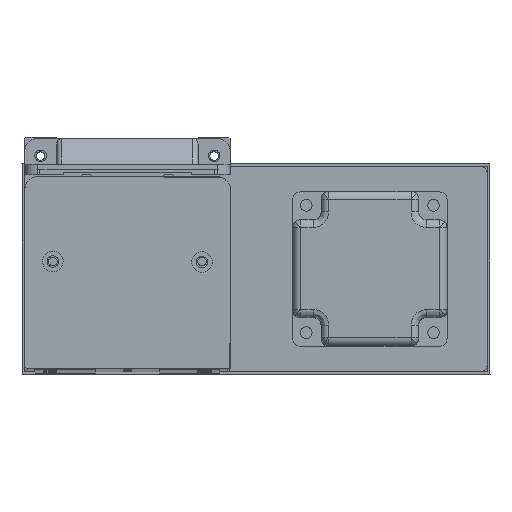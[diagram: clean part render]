
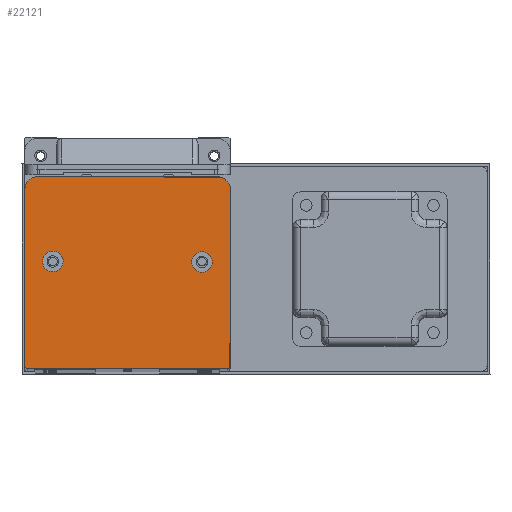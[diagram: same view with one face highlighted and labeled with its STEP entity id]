
A CAD part, top view. The second image highlights one B-rep face of the part: STEP entity #22121.
In plain terms, the highlighted planar face has unit normal (0, 0, 1).
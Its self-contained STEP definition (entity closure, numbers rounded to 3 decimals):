
#51 = VERTEX_POINT ( 'NONE', #21382 ) ;
#153 = ORIENTED_EDGE ( 'NONE', *, *, #10822, .T. ) ;
#231 = EDGE_LOOP ( 'NONE', ( #22537, #33072 ) ) ;
#1063 = VECTOR ( 'NONE', #26763, 1000. ) ;
#1580 = DIRECTION ( 'NONE',  ( 1., 0., 0. ) ) ;
#1780 = CARTESIAN_POINT ( 'NONE',  ( 79., 0., 10. ) ) ;
#1834 = CIRCLE ( 'NONE', #13838, 4. ) ;
#2500 = CARTESIAN_POINT ( 'NONE',  ( 73., 41.5, 10. ) ) ;
#2941 = CARTESIAN_POINT ( 'NONE',  ( 15., 41.5, 10. ) ) ;
#3201 = AXIS2_PLACEMENT_3D ( 'NONE', #27358, #7505, #29873 ) ;
#3590 = CARTESIAN_POINT ( 'NONE',  ( 5., 69.5, 10. ) ) ;
#3777 = VECTOR ( 'NONE', #22528, 1000. ) ;
#4654 = CARTESIAN_POINT ( 'NONE',  ( 0., 1., 10. ) ) ;
#6252 = LINE ( 'NONE', #23655, #1063 ) ;
#6889 = CIRCLE ( 'NONE', #20755, 5. ) ;
#6942 = CARTESIAN_POINT ( 'NONE',  ( 0., 0., 10. ) ) ;
#6992 = CARTESIAN_POINT ( 'NONE',  ( 1., 0., 10. ) ) ;
#7310 = DIRECTION ( 'NONE',  ( -1., 0., 0. ) ) ;
#7505 = DIRECTION ( 'NONE',  ( 0., 0., -1. ) ) ;
#7845 = VERTEX_POINT ( 'NONE', #20603 ) ;
#7931 = CARTESIAN_POINT ( 'NONE',  ( 69., 41.5, 10. ) ) ;
#9142 = DIRECTION ( 'NONE',  ( -1., 0., 0. ) ) ;
#9224 = ORIENTED_EDGE ( 'NONE', *, *, #35361, .T. ) ;
#9540 = CARTESIAN_POINT ( 'NONE',  ( 69., 41.5, 10. ) ) ;
#10041 = VECTOR ( 'NONE', #18336, 1000. ) ;
#10180 = AXIS2_PLACEMENT_3D ( 'NONE', #7931, #24781, #30065 ) ;
#10202 = EDGE_CURVE ( 'NONE', #31903, #7845, #16773, .T. ) ;
#10227 = CIRCLE ( 'NONE', #10180, 4. ) ;
#10435 = ORIENTED_EDGE ( 'NONE', *, *, #33149, .F. ) ;
#10571 = EDGE_CURVE ( 'NONE', #51, #14330, #10724, .T. ) ;
#10724 = CIRCLE ( 'NONE', #22189, 4. ) ;
#10814 = AXIS2_PLACEMENT_3D ( 'NONE', #16906, #33073, #9142 ) ;
#10822 = EDGE_CURVE ( 'NONE', #31228, #31903, #28913, .T. ) ;
#11089 = LINE ( 'NONE', #32245, #35732 ) ;
#11577 = DIRECTION ( 'NONE',  ( 0., 0., 1. ) ) ;
#11606 = AXIS2_PLACEMENT_3D ( 'NONE', #18357, #26589, #7310 ) ;
#11622 = EDGE_CURVE ( 'NONE', #31456, #31884, #11089, .T. ) ;
#12131 = CIRCLE ( 'NONE', #11606, 1. ) ;
#12234 = DIRECTION ( 'NONE',  ( -1., 0., 0. ) ) ;
#12675 = EDGE_LOOP ( 'NONE', ( #24429, #10435 ) ) ;
#13079 = VERTEX_POINT ( 'NONE', #21258 ) ;
#13838 = AXIS2_PLACEMENT_3D ( 'NONE', #14099, #33420, #31142 ) ;
#14099 = CARTESIAN_POINT ( 'NONE',  ( 11., 41.5, 10. ) ) ;
#14330 = VERTEX_POINT ( 'NONE', #2941 ) ;
#14773 = FACE_BOUND ( 'NONE', #12675, .T. ) ;
#14899 = ORIENTED_EDGE ( 'NONE', *, *, #35265, .T. ) ;
#15375 = DIRECTION ( 'NONE',  ( 0., 0., 1. ) ) ;
#15679 = EDGE_CURVE ( 'NONE', #31884, #27005, #12131, .T. ) ;
#15861 = PLANE ( 'NONE',  #3201 ) ;
#16080 = DIRECTION ( 'NONE',  ( 0., -1., 0. ) ) ;
#16773 = LINE ( 'NONE', #25315, #3777 ) ;
#16906 = CARTESIAN_POINT ( 'NONE',  ( 75., 69.5, 10. ) ) ;
#17322 = CARTESIAN_POINT ( 'NONE',  ( 79., 1., 10. ) ) ;
#18336 = DIRECTION ( 'NONE',  ( 1., 0., 0. ) ) ;
#18357 = CARTESIAN_POINT ( 'NONE',  ( 1., 1., 10. ) ) ;
#18669 = FACE_BOUND ( 'NONE', #231, .T. ) ;
#20055 = ORIENTED_EDGE ( 'NONE', *, *, #28233, .T. ) ;
#20452 = DIRECTION ( 'NONE',  ( 1., 0., 0. ) ) ;
#20603 = CARTESIAN_POINT ( 'NONE',  ( 5., 74.5, 10. ) ) ;
#20755 = AXIS2_PLACEMENT_3D ( 'NONE', #3590, #11577, #31049 ) ;
#21227 = EDGE_CURVE ( 'NONE', #14330, #51, #1834, .T. ) ;
#21258 = CARTESIAN_POINT ( 'NONE',  ( 80., 1., 10. ) ) ;
#21382 = CARTESIAN_POINT ( 'NONE',  ( 7., 41.5, 10. ) ) ;
#22121 = ADVANCED_FACE ( 'NONE', ( #14773, #18669, #23039 ), #15861, .F. ) ;
#22189 = AXIS2_PLACEMENT_3D ( 'NONE', #26508, #15375, #1580 ) ;
#22528 = DIRECTION ( 'NONE',  ( -1., 0., 0. ) ) ;
#22537 = ORIENTED_EDGE ( 'NONE', *, *, #21227, .F. ) ;
#22886 = ORIENTED_EDGE ( 'NONE', *, *, #26601, .T. ) ;
#23039 = FACE_OUTER_BOUND ( 'NONE', #28007, .T. ) ;
#23655 = CARTESIAN_POINT ( 'NONE',  ( 80., 0., 10. ) ) ;
#24026 = CIRCLE ( 'NONE', #33535, 1. ) ;
#24429 = ORIENTED_EDGE ( 'NONE', *, *, #25377, .F. ) ;
#24781 = DIRECTION ( 'NONE',  ( 0., 0., 1. ) ) ;
#24894 = CIRCLE ( 'NONE', #35691, 4. ) ;
#25315 = CARTESIAN_POINT ( 'NONE',  ( 0., 74.5, 10. ) ) ;
#25377 = EDGE_CURVE ( 'NONE', #31956, #31917, #24894, .T. ) ;
#25652 = LINE ( 'NONE', #6942, #10041 ) ;
#26508 = CARTESIAN_POINT ( 'NONE',  ( 11., 41.5, 10. ) ) ;
#26589 = DIRECTION ( 'NONE',  ( 0., 0., 1. ) ) ;
#26601 = EDGE_CURVE ( 'NONE', #27005, #33049, #25652, .T. ) ;
#26763 = DIRECTION ( 'NONE',  ( 0., 1., 0. ) ) ;
#26830 = ORIENTED_EDGE ( 'NONE', *, *, #15679, .T. ) ;
#27005 = VERTEX_POINT ( 'NONE', #6992 ) ;
#27358 = CARTESIAN_POINT ( 'NONE',  ( 0., 0., 10. ) ) ;
#28007 = EDGE_LOOP ( 'NONE', ( #35368, #26830, #22886, #14899, #9224, #153, #29994, #20055 ) ) ;
#28233 = EDGE_CURVE ( 'NONE', #7845, #31456, #6889, .T. ) ;
#28830 = DIRECTION ( 'NONE',  ( 0., 0., 1. ) ) ;
#28913 = CIRCLE ( 'NONE', #10814, 5. ) ;
#29820 = CARTESIAN_POINT ( 'NONE',  ( 75., 74.5, 10. ) ) ;
#29873 = DIRECTION ( 'NONE',  ( -1., 0., 0. ) ) ;
#29994 = ORIENTED_EDGE ( 'NONE', *, *, #10202, .T. ) ;
#30065 = DIRECTION ( 'NONE',  ( 1., 0., 0. ) ) ;
#30072 = CARTESIAN_POINT ( 'NONE',  ( 65., 41.5, 10. ) ) ;
#30097 = CARTESIAN_POINT ( 'NONE',  ( 0., 69.5, 10. ) ) ;
#31049 = DIRECTION ( 'NONE',  ( -1., 0., 0. ) ) ;
#31142 = DIRECTION ( 'NONE',  ( 1., 0., 0. ) ) ;
#31228 = VERTEX_POINT ( 'NONE', #34429 ) ;
#31456 = VERTEX_POINT ( 'NONE', #30097 ) ;
#31884 = VERTEX_POINT ( 'NONE', #4654 ) ;
#31903 = VERTEX_POINT ( 'NONE', #29820 ) ;
#31917 = VERTEX_POINT ( 'NONE', #30072 ) ;
#31956 = VERTEX_POINT ( 'NONE', #2500 ) ;
#32245 = CARTESIAN_POINT ( 'NONE',  ( 0., 0., 10. ) ) ;
#33049 = VERTEX_POINT ( 'NONE', #1780 ) ;
#33072 = ORIENTED_EDGE ( 'NONE', *, *, #10571, .F. ) ;
#33073 = DIRECTION ( 'NONE',  ( 0., 0., 1. ) ) ;
#33149 = EDGE_CURVE ( 'NONE', #31917, #31956, #10227, .T. ) ;
#33420 = DIRECTION ( 'NONE',  ( 0., 0., 1. ) ) ;
#33535 = AXIS2_PLACEMENT_3D ( 'NONE', #17322, #28830, #12234 ) ;
#34288 = DIRECTION ( 'NONE',  ( 0., 0., 1. ) ) ;
#34429 = CARTESIAN_POINT ( 'NONE',  ( 80., 69.5, 10. ) ) ;
#35265 = EDGE_CURVE ( 'NONE', #33049, #13079, #24026, .T. ) ;
#35361 = EDGE_CURVE ( 'NONE', #13079, #31228, #6252, .T. ) ;
#35368 = ORIENTED_EDGE ( 'NONE', *, *, #11622, .T. ) ;
#35691 = AXIS2_PLACEMENT_3D ( 'NONE', #9540, #34288, #20452 ) ;
#35732 = VECTOR ( 'NONE', #16080, 1000. ) ;
